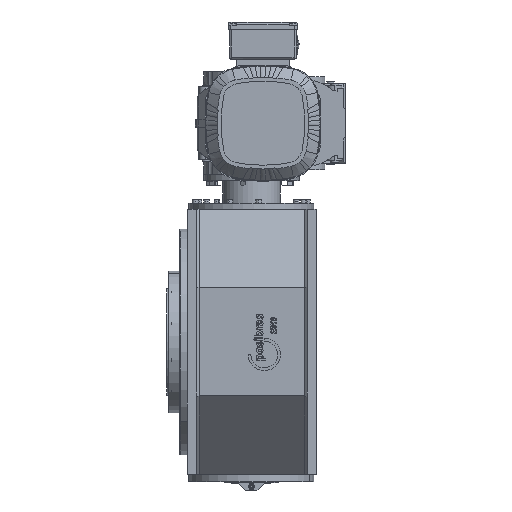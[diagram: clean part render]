
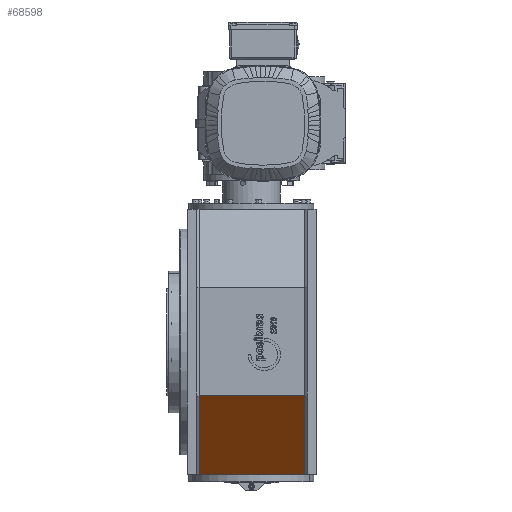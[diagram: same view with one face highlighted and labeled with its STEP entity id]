
A CAD part, left-side view. The second image highlights one B-rep face of the part: STEP entity #68598.
In plain terms, the highlighted planar face has unit normal (-0.707, 0, -0.707).
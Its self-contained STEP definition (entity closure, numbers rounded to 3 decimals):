
#319 = ORIENTED_EDGE ( 'NONE', *, *, #10951, .T. ) ;
#1556 = VERTEX_POINT ( 'NONE', #85380 ) ;
#1801 = CARTESIAN_POINT ( 'NONE',  ( 182.511, 264., -298.5 ) ) ;
#3283 = DIRECTION ( 'NONE',  ( 0., -1., 0. ) ) ;
#6430 = VECTOR ( 'NONE', #63394, 1000. ) ;
#10951 = EDGE_CURVE ( 'NONE', #46663, #25851, #55896, .T. ) ;
#13557 = FACE_OUTER_BOUND ( 'NONE', #25514, .T. ) ;
#14609 = EDGE_CURVE ( 'NONE', #1556, #66153, #62512, .T. ) ;
#19735 = VECTOR ( 'NONE', #84907, 1000. ) ;
#24139 = VECTOR ( 'NONE', #3283, 1000. ) ;
#25514 = EDGE_LOOP ( 'NONE', ( #33147, #319, #43738, #28364 ) ) ;
#25851 = VERTEX_POINT ( 'NONE', #28471 ) ;
#28302 = DIRECTION ( 'NONE',  ( 0.707, 0., 0.707 ) ) ;
#28364 = ORIENTED_EDGE ( 'NONE', *, *, #14609, .T. ) ;
#28471 = CARTESIAN_POINT ( 'NONE',  ( 182.511, 264., -298.5 ) ) ;
#29357 = EDGE_CURVE ( 'NONE', #46663, #66153, #51312, .T. ) ;
#30324 = CARTESIAN_POINT ( 'NONE',  ( 6., 270., -121.989 ) ) ;
#33147 = ORIENTED_EDGE ( 'NONE', *, *, #29357, .F. ) ;
#35235 = CARTESIAN_POINT ( 'NONE',  ( 6., 26., -121.989 ) ) ;
#37808 = AXIS2_PLACEMENT_3D ( 'NONE', #53830, #28302, #68965 ) ;
#43738 = ORIENTED_EDGE ( 'NONE', *, *, #88129, .T. ) ;
#46663 = VERTEX_POINT ( 'NONE', #53612 ) ;
#51312 = LINE ( 'NONE', #30324, #19735 ) ;
#53612 = CARTESIAN_POINT ( 'NONE',  ( 6., 264., -121.989 ) ) ;
#53830 = CARTESIAN_POINT ( 'NONE',  ( 6., 270., -121.989 ) ) ;
#55896 = LINE ( 'NONE', #1801, #70606 ) ;
#62512 = LINE ( 'NONE', #75897, #6430 ) ;
#63394 = DIRECTION ( 'NONE',  ( -0.707, 0., 0.707 ) ) ;
#66153 = VERTEX_POINT ( 'NONE', #35235 ) ;
#68100 = PLANE ( 'NONE',  #37808 ) ;
#68598 = ADVANCED_FACE ( 'NONE', ( #13557 ), #68100, .F. ) ;
#68965 = DIRECTION ( 'NONE',  ( 0.707, 0., -0.707 ) ) ;
#70606 = VECTOR ( 'NONE', #83654, 1000. ) ;
#75897 = CARTESIAN_POINT ( 'NONE',  ( 6., 26., -121.989 ) ) ;
#77939 = LINE ( 'NONE', #84275, #24139 ) ;
#83654 = DIRECTION ( 'NONE',  ( 0.707, 0., -0.707 ) ) ;
#84275 = CARTESIAN_POINT ( 'NONE',  ( 182.511, 270., -298.5 ) ) ;
#84907 = DIRECTION ( 'NONE',  ( 0., -1., 0. ) ) ;
#85380 = CARTESIAN_POINT ( 'NONE',  ( 182.511, 26., -298.5 ) ) ;
#88129 = EDGE_CURVE ( 'NONE', #25851, #1556, #77939, .T. ) ;
